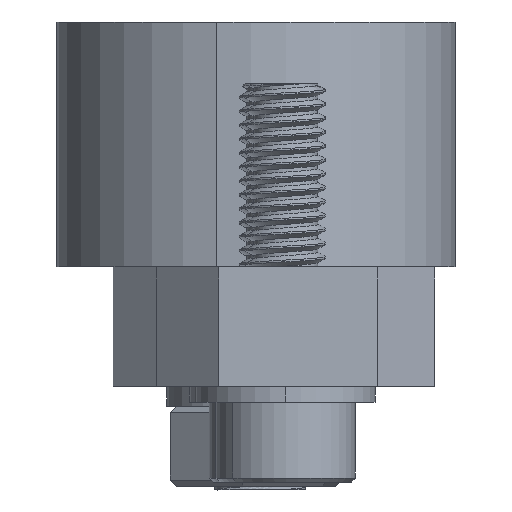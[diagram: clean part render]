
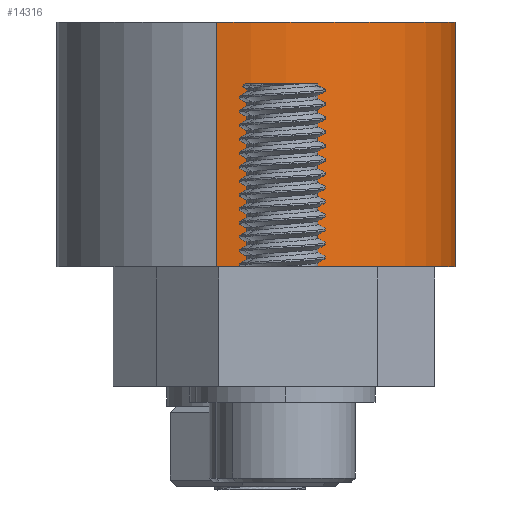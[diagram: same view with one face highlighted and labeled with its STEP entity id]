
A CAD part, left-side view. The second image highlights one B-rep face of the part: STEP entity #14316.
In plain terms, the highlighted cylindrical face has radius 10 mm (diameter 20 mm), a partial arc.
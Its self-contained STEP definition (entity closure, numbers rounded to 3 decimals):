
#484 = CARTESIAN_POINT ( 'NONE',  ( 91.778, 5.181, 11.829 ) ) ;
#622 = FACE_OUTER_BOUND ( 'NONE', #13655, .T. ) ;
#1441 = CARTESIAN_POINT ( 'NONE',  ( 81.974, 7.152, -0.471 ) ) ;
#1502 = AXIS2_PLACEMENT_3D ( 'NONE', #5737, #22086, #7550 ) ;
#3978 = EDGE_CURVE ( 'NONE', #25374, #26214, #9023, .T. ) ;
#4250 = VECTOR ( 'NONE', #25581, 1000. ) ;
#4631 = ORIENTED_EDGE ( 'NONE', *, *, #9886, .F. ) ;
#5021 = DIRECTION ( 'NONE',  ( -0.98, 0.197, 0. ) ) ;
#5737 = CARTESIAN_POINT ( 'NONE',  ( 81.974, 7.152, 11.829 ) ) ;
#6023 = ORIENTED_EDGE ( 'NONE', *, *, #3978, .T. ) ;
#6371 = CARTESIAN_POINT ( 'NONE',  ( 72.171, 9.122, -0.471 ) ) ;
#6702 = DIRECTION ( 'NONE',  ( 0., 0., -1. ) ) ;
#6934 = DIRECTION ( 'NONE',  ( 0., 0., -1. ) ) ;
#7494 = ORIENTED_EDGE ( 'NONE', *, *, #9642, .F. ) ;
#7550 = DIRECTION ( 'NONE',  ( -0.98, 0.197, 0. ) ) ;
#9023 = CIRCLE ( 'NONE', #1502, 10. ) ;
#9560 = VERTEX_POINT ( 'NONE', #11113 ) ;
#9642 = EDGE_CURVE ( 'NONE', #9560, #14261, #24740, .T. ) ;
#9886 = EDGE_CURVE ( 'NONE', #25374, #9560, #21334, .T. ) ;
#10927 = LINE ( 'NONE', #6371, #4250 ) ;
#11113 = CARTESIAN_POINT ( 'NONE',  ( 91.778, 5.181, -0.471 ) ) ;
#13039 = CARTESIAN_POINT ( 'NONE',  ( 81.974, 7.152, -0.471 ) ) ;
#13132 = AXIS2_PLACEMENT_3D ( 'NONE', #1441, #24825, #24554 ) ;
#13642 = VECTOR ( 'NONE', #6934, 1000. ) ;
#13655 = EDGE_LOOP ( 'NONE', ( #4631, #6023, #19541, #7494 ) ) ;
#14261 = VERTEX_POINT ( 'NONE', #17909 ) ;
#14316 = ADVANCED_FACE ( 'NONE', ( #622 ), #17494, .T. ) ;
#14904 = CARTESIAN_POINT ( 'NONE',  ( 72.171, 9.122, 11.829 ) ) ;
#15012 = AXIS2_PLACEMENT_3D ( 'NONE', #13039, #6702, #5021 ) ;
#17428 = CARTESIAN_POINT ( 'NONE',  ( 91.778, 5.181, -0.471 ) ) ;
#17494 = CYLINDRICAL_SURFACE ( 'NONE', #13132, 10. ) ;
#17909 = CARTESIAN_POINT ( 'NONE',  ( 72.171, 9.122, -0.471 ) ) ;
#19541 = ORIENTED_EDGE ( 'NONE', *, *, #26985, .T. ) ;
#21334 = LINE ( 'NONE', #17428, #13642 ) ;
#22086 = DIRECTION ( 'NONE',  ( 0., 0., -1. ) ) ;
#24554 = DIRECTION ( 'NONE',  ( -0.98, 0.197, 0. ) ) ;
#24740 = CIRCLE ( 'NONE', #15012, 10. ) ;
#24825 = DIRECTION ( 'NONE',  ( 0., 0., -1. ) ) ;
#25374 = VERTEX_POINT ( 'NONE', #484 ) ;
#25581 = DIRECTION ( 'NONE',  ( 0., 0., -1. ) ) ;
#26214 = VERTEX_POINT ( 'NONE', #14904 ) ;
#26985 = EDGE_CURVE ( 'NONE', #26214, #14261, #10927, .T. ) ;
